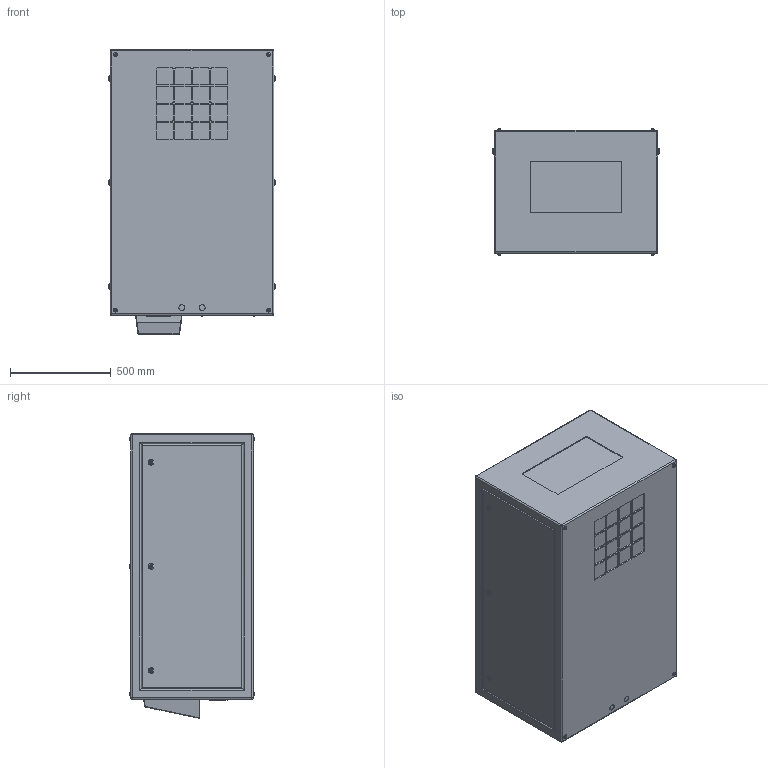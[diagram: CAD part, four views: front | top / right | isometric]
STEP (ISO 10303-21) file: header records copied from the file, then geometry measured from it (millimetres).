
FILE_DESCRIPTION (( 'STEP AP214' ), '1' );
FILE_NAME ('Cyclone 55.305.L R10.STEP', '2022-09-08T19:04:50', ( '' ), ( '' ), 'SwSTEP 2.0', 'SolidWorks 2020', '' );
FILE_SCHEMA (( 'AUTOMOTIVE_DESIGN' ));
Length unit declared in the file: inch
Products named in the file (1): Cyclone 55.305.L R10
Bounding box: 825.5 x 624.2 x 1416.05 mm (x, y, z)
Volume: 653035310.2 mm3; surface area: 5223242.2 mm2
Topology: 1 solids, 7 shells, 532 faces, 1256 edges, 804 vertices
Faces by surface type: plane 260, cylinder 220, torus 44, sphere 8
Entity records: 19325 total; most frequent: CARTESIAN_POINT 3129, DIRECTION 2694, ORIENTED_EDGE 2496, EDGE_CURVE 1248, AXIS2_PLACEMENT_3D 1009, VERTEX_POINT 804, LINE 676, VECTOR 676
